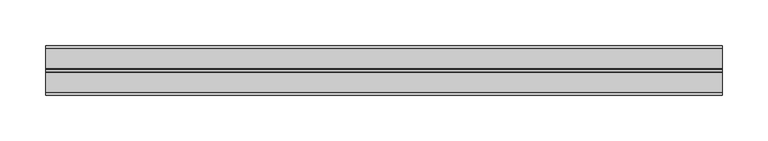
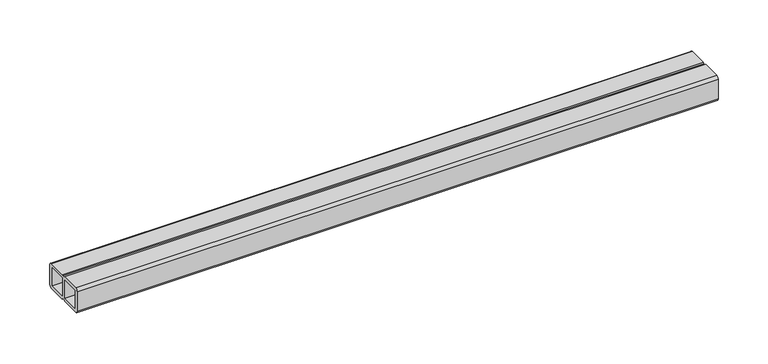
"""IFC4 building model written with IfcOpenShell, lengths in millimetres: proxy geometry, Legar systemowy LD5030 : Legar systemowy LD5030."""

from ifc_helpers import new_model, si_unit, point, frame, frame_2d, origin, place, context, project, spatial, polyline, circle_curve, trimmed, segment, composite_curve, outline, extrude, source, transform, mapped, element, save


def generic_models_ff447b25(model_context):
    return source(origin(), model_context, "Body", "SweptSolid", [
        extrude(outline(composite_curve([segment(polyline([(-3.0018903, 0.0), (-24.9387574, 0.0), (-25.582892, 1.2480109), (-28.6791258, 1.2480109), (-29.3232605, 0.0), (-51.2601275, 0.0)]), True, "CONTINUOUS"), segment(trimmed(circle_curve(frame_2d((-51.2410882, 3.0209296)), 3.0209896), [point((-51.2601275, 0.0))], [point((-54.2620178, 3.0018903))], False, "CARTESIAN"), True, "CONTINUOUS"), segment(polyline([(-54.2620178, 3.0018903), (-54.2620178, 26.9981097)]), True, "CONTINUOUS"), segment(trimmed(circle_curve(frame_2d((-51.227068, 26.9650502)), 3.0351298), [point((-54.2620178, 26.9981097))], [point((-51.2601275, 30.0))], False, "CARTESIAN"), True, "CONTINUOUS"), segment(polyline([(-51.2601275, 30.0), (-29.321697, 30.0), (-28.6791258, 28.7550182), (-25.582892, 28.7550182), (-24.9403208, 30.0), (-3.0018903, 30.0)]), True, "CONTINUOUS"), segment(trimmed(circle_curve(frame_2d((-3.0359475, 26.9640525)), 3.0361385), [point((-3.0018903, 30.0))], [point((0.0, 26.9981097))], False, "CARTESIAN"), True, "CONTINUOUS"), segment(polyline([(0.0, 26.9981097), (0.0, 3.0018903)]), True, "CONTINUOUS"), segment(trimmed(circle_curve(frame_2d((-3.0303538, 3.0303538)), 3.0304875), [point((0.0, 3.0018903))], [point((-3.0018903, 0.0))], False, "CARTESIAN"), True, "CONTINUOUS")], self_intersect=False), holes=[polyline([(-24.7311627, 26.1226846), (-24.7311627, 3.8773154), (-4.2620178, 3.8773154), (-4.2620178, 26.1226846), (-24.7311627, 26.1226846)]), polyline([(-29.5308551, 26.1226846), (-50.0, 26.1226846), (-50.0, 3.8773154), (-29.5308551, 3.8773154), (-29.5308551, 26.1226846)])]), frame((0.0, 0.0, 0.0), z_axis=(1.0, 0.0, 0.0), x_axis=(0.0, 1.0, 0.0)), (0.0, 0.0, 1.0), 741.0533313),
    ])


if __name__ == "__main__":
    model = new_model("IFC4")
    model_context = context("Model", 3, world=origin())
    ifc_project = project(units=[si_unit("LENGTHUNIT", "METRE", prefix="MILLI")], contexts=[model_context])
    site = spatial("IfcSite", under=ifc_project)
    building = spatial("IfcBuilding", under=site)
    placement = place(None, origin())
    generic_models_shape = generic_models_ff447b25(model_context)
    element("IfcBuildingElementProxy", 1, Name="Legar systemowy LD5030 : Legar systemowy LD5030", ObjectType="Legar systemowy LD5030 : Legar systemowy LD5030", at=placement, inside=building, context=model_context, shape_type="MappedRepresentation", body=[
        mapped(generic_models_shape, transform((0.0, 0.0, 0.0), x_axis=(1.0, 0.0, 0.0), y_axis=(0.0, 1.0, 0.0), z_axis=(0.0, 0.0, 1.0))),
    ])
    save(model, "model.ifc")
